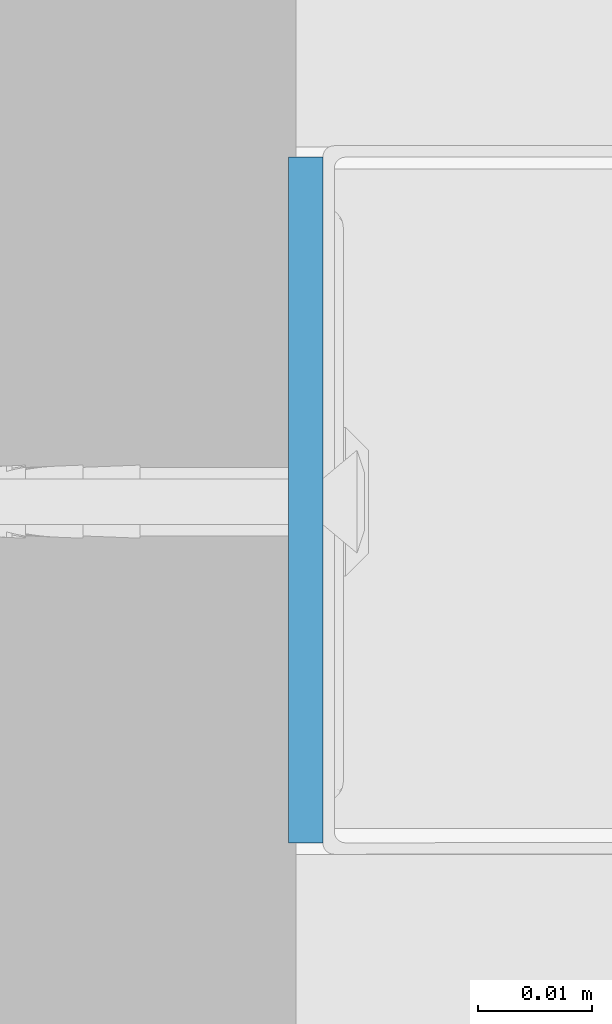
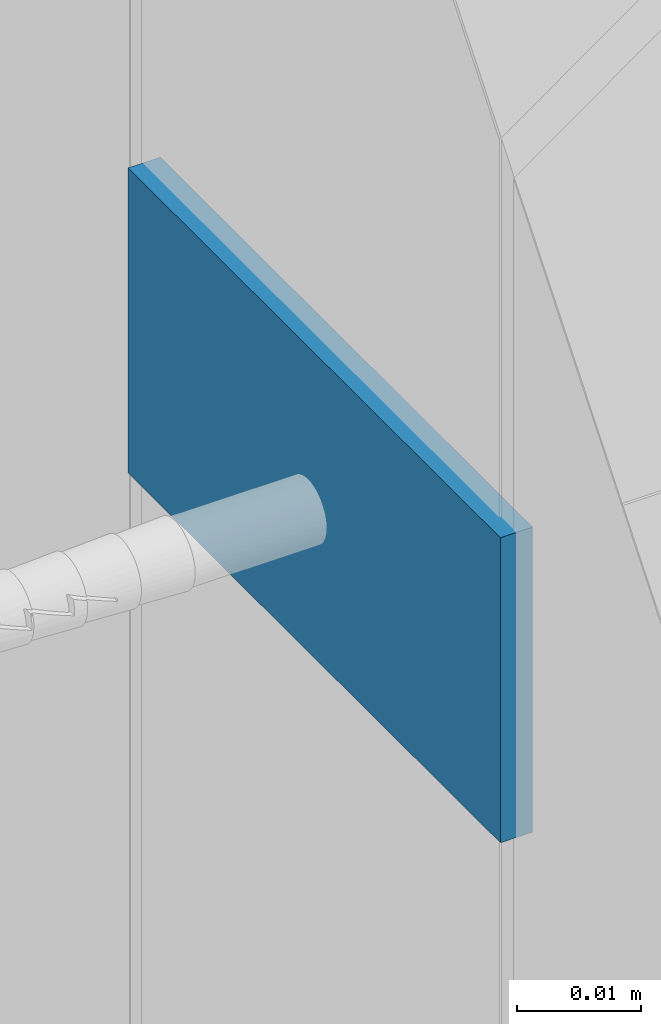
# One storey, part 53 of 61: 1 wall.
"""IFC2X3 building model written with IfcOpenShell, lengths in millimetres."""

from ifc_helpers import new_model, si_unit, frame, origin_with_axes, place, context, subcontext, project, spatial, faceted_brep, material, type_object, element, save


model = new_model("IFC2X3")

# Units and contexts
model_context = context("Model", 3, world=origin_with_axes())
body_context = subcontext(model_context, "Body", "Model", "MODEL_VIEW")
ifc_project = project(units=[si_unit("LENGTHUNIT", "METRE", prefix="MILLI"), si_unit("AREAUNIT", "SQUARE_METRE"), si_unit("VOLUMEUNIT", "CUBIC_METRE")], contexts=[model_context])

# Site, building, storey
site_placement = place(None, frame((2152.1410261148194, -2015.0250894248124, 57.61556563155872), z_axis=(0.0, 0.0, 1.0), x_axis=(-1.1102230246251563e-16, 1.0, 0.0)))
site = spatial("IfcSite", under=ifc_project, at=site_placement, Name="Default Site", CompositionType="ELEMENT")
building_placement = place(site_placement, origin_with_axes())
building = spatial("IfcBuilding", under=site, at=building_placement, Name="Default Building", CompositionType="ELEMENT")
storey_placement = place(building_placement, origin_with_axes())
storey = spatial("IfcBuildingStorey", under=building, at=storey_placement, Name="Default Building Storey", CompositionType="ELEMENT", Elevation=57.61556563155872)

# Wall
ifc_material = material(Name="Default")
wall_type = type_object("IfcWallType", Name="Taśma uszczelniająca piankowa RIGIPS szer.30mm#1", PredefinedType="NOTDEFINED")
wall_placement = place(storey_placement, frame((3408.037086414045, 2019.7786110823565, 120.9602480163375), z_axis=(0.0, 0.0, 1.0), x_axis=(1.0, 0.0, 0.0)))
element("IfcWall", 1, at=wall_placement, inside=storey, type_object=wall_type, material=ifc_material, Name="Taśma uszczelniająca piankowa RIGIPS szer.30mm", context=body_context, shape_type="Brep", body=[
    faceted_brep([(59.99999865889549, 0.0, 4.511946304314e-12), (0.0, 0.0, 0.0), (1.0828671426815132e-12, -2.2379254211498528e-11, -29.999999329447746), (59.99999865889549, -2.2379254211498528e-11, -29.999999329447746), (0.0, 3.000000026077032, 0.0), (1.0828671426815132e-12, 3.000000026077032, -29.999999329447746), (59.99999865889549, 3.000000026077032, 0.0), (59.99999865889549, 3.000000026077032, -29.999999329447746)], [[[0, 1, 2, 3]], [[1, 4, 5, 2]], [[4, 6, 7, 5]], [[6, 0, 3, 7]], [[7, 3, 2, 5]], [[0, 6, 4, 1]]]),
])

save(model, "model.ifc")
